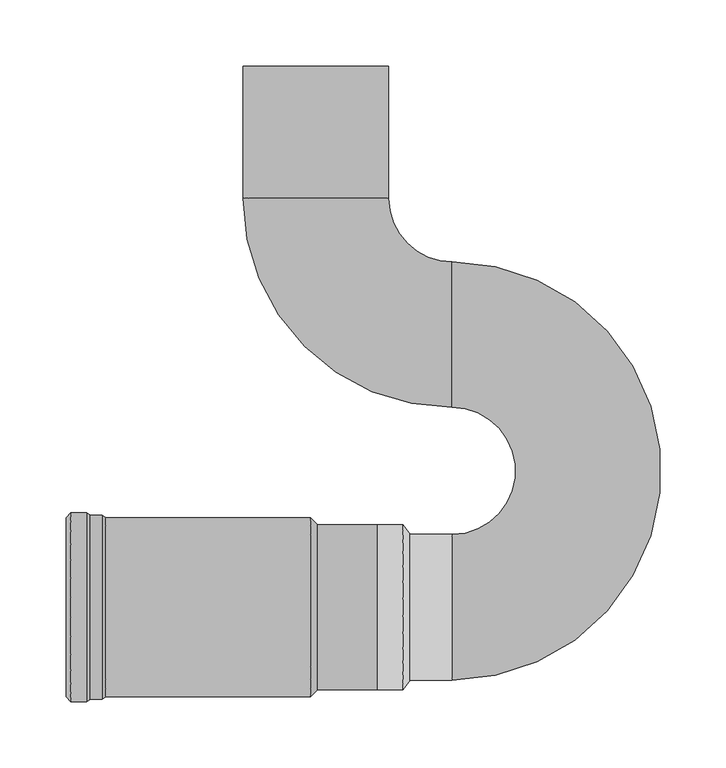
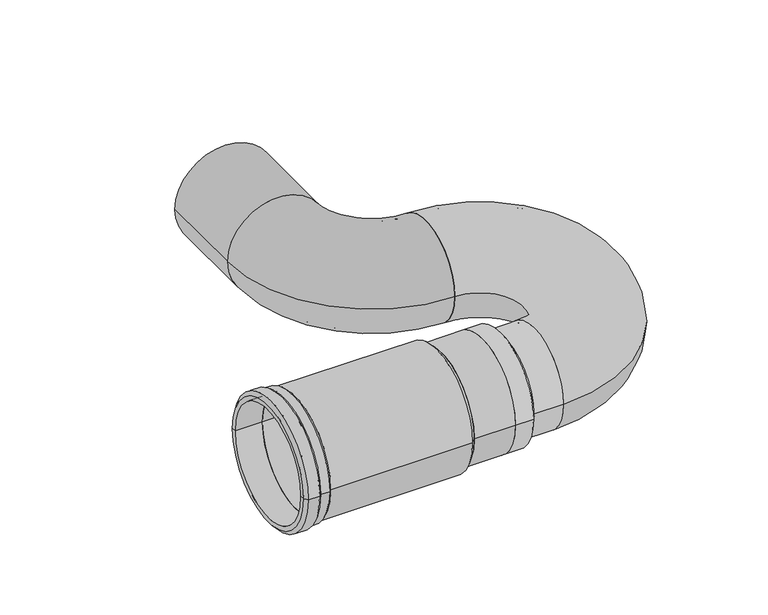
"""IFC4 building model written with IfcOpenShell, lengths in millimetres: pipe fitting geometry, Superdrain Trap with long socket : Superdrain Trap with long socket."""

import ifcopenshell
import ifcopenshell.guid

model = None  # the IFC model being written
_history = None  # IfcOwnerHistory: only IFC2X3 demands one
_inside = {}  # id of a spatial element -> (the spatial element, [elements in it])
_under = {}  # id of a project, library or spatial element -> (it, [spatial elements below it])
_declared = {}  # id of a project -> (the project, [libraries it declares])
_typed = {}  # id of a type object -> (the type object, [elements of that type])
_made_of = {}  # id of a material, layer set ... -> (it, [elements and type objects made of it])


def new_model(schema):
    """Start an empty IFC model of exactly this schema.

    Asked for "IFC4X3", IfcOpenShell would pick the latest addendum, in which some entities
    have other attributes; the version numbers below select the first issue.
    IFC2X3 requires an IfcOwnerHistory on every rooted entity: one is made here for all.
    """
    global model, _history
    if schema == "IFC4X3":
        model = ifcopenshell.file(schema_version=(4, 3, 0, 0))
    else:
        model = ifcopenshell.file(schema=schema)
    _inside.clear()
    _under.clear()
    _declared.clear()
    _typed.clear()
    _made_of.clear()
    _history = None
    if model.schema == "IFC2X3":
        org = make("IfcOrganization", Name="unknown")
        user = make(
            "IfcPersonAndOrganization",
            ThePerson=make("IfcPerson", FamilyName="unknown"),
            TheOrganization=org,
        )
        app = make(
            "IfcApplication",
            ApplicationDeveloper=org,
            Version="unknown",
            ApplicationFullName="unknown",
            ApplicationIdentifier="unknown",
        )
        _history = make(
            "IfcOwnerHistory",
            OwningUser=user,
            OwningApplication=app,
            ChangeAction="ADDED",
            CreationDate=0,
        )
    return model


def make(cls, **values):
    """One entity of the class cls with the attributes given. An attribute that is None is left unset."""
    return model.create_entity(
        cls, **{name: value for name, value in values.items() if value is not None}
    )


def rooted(cls, **values):
    """An entity with a GlobalId (a new one), such as an element, a storey or a relation."""
    return make(cls, GlobalId=ifcopenshell.guid.new(), OwnerHistory=_history, **values)


def si_unit(unit_type, name, prefix=None):
    """IfcSIUnit, for example si_unit("LENGTHUNIT", "METRE", prefix="MILLI")."""
    return make("IfcSIUnit", UnitType=unit_type, Prefix=prefix, Name=name)


def assignment(units):
    """IfcUnitAssignment: the units of a project."""
    return None if units is None else make("IfcUnitAssignment", Units=units)


def point(xyz):
    """IfcCartesianPoint."""
    return None if xyz is None else make("IfcCartesianPoint", Coordinates=xyz)


def direction(xyz):
    """IfcDirection."""
    return None if xyz is None else make("IfcDirection", DirectionRatios=xyz)


def frame(location, z_axis=None, x_axis=None):
    """IfcAxis2Placement3D, a coordinate frame: its origin and axes. An axis left out is left unset."""
    return make(
        "IfcAxis2Placement3D",
        Location=point(location),
        Axis=direction(z_axis),
        RefDirection=direction(x_axis),
    )


def frame_2d(location, x_axis=None):
    """IfcAxis2Placement2D, a coordinate frame in the plane: its origin and x axis."""
    return make(
        "IfcAxis2Placement2D", Location=point(location), RefDirection=direction(x_axis)
    )


def origin():
    """The frame at (0, 0, 0) with its axes left unset."""
    return frame((0.0, 0.0, 0.0))


def origin_2d():
    """The frame at (0, 0) in the plane with its x axis left unset."""
    return frame_2d((0.0, 0.0))


def place(relative_to, where):
    """IfcLocalPlacement: puts the frame where relative to a parent placement (None: the world)."""
    return make(
        "IfcLocalPlacement", PlacementRelTo=relative_to, RelativePlacement=where
    )


def context(
    kind, dimensions, precision=None, world=None, true_north=None, identifier=None
):
    """IfcGeometricRepresentationContext, for example the 3D "Model" context."""
    return make(
        "IfcGeometricRepresentationContext",
        ContextIdentifier=identifier,
        ContextType=kind,
        CoordinateSpaceDimension=dimensions,
        Precision=precision,
        WorldCoordinateSystem=world,
        TrueNorth=true_north,
    )


def project(units=None, contexts=None):
    """IfcProject with its units and contexts."""
    return rooted(
        "IfcProject",
        Name="project",
        RepresentationContexts=contexts,
        UnitsInContext=assignment(units),
    )


def spatial(cls, under=None, at=None, **own):
    """A site, building, storey or space (cls), placed at a placement, below another one or the project."""
    s = rooted(cls, ObjectPlacement=at, **own)
    if under is not None:
        _under.setdefault(under.id(), (under, []))[1].append(s)
    return s


def polyline(points):
    """IfcPolyline through the points."""
    return make("IfcPolyline", Points=[point(p) for p in points])


def circle_curve(where, radius):
    """IfcCircle in the frame where."""
    return make("IfcCircle", Position=where, Radius=radius)


def ellipse_curve(where, semi_axis1, semi_axis2):
    """IfcEllipse in the frame where."""
    return make(
        "IfcEllipse", Position=where, SemiAxis1=semi_axis1, SemiAxis2=semi_axis2
    )


def trimmed(basis, trim1, trim2, sense, master):
    """IfcTrimmedCurve: the piece of a basis curve between two trims."""
    return make(
        "IfcTrimmedCurve",
        BasisCurve=basis,
        Trim1=trim1,
        Trim2=trim2,
        SenseAgreement=sense,
        MasterRepresentation=master,
    )


def segment(curve, same_sense, transition):
    """IfcCompositeCurveSegment."""
    return make(
        "IfcCompositeCurveSegment",
        Transition=transition,
        SameSense=same_sense,
        ParentCurve=curve,
    )


def composite_curve(segments, self_intersect=None):
    """IfcCompositeCurve: segments joined end to end."""
    return make("IfcCompositeCurve", Segments=segments, SelfIntersect=self_intersect)


def outline(outer, holes=None, kind="AREA"):
    """IfcArbitraryClosedProfileDef: a profile drawn as a closed curve; with holes, ...WithVoids."""
    if holes is None:
        return make("IfcArbitraryClosedProfileDef", ProfileType=kind, OuterCurve=outer)
    return make(
        "IfcArbitraryProfileDefWithVoids",
        ProfileType=kind,
        OuterCurve=outer,
        InnerCurves=holes,
    )


def extrude(swept, where, along, depth):
    """IfcExtrudedAreaSolid: the profile swept, set in the frame where, extruded along a direction by depth."""
    return make(
        "IfcExtrudedAreaSolid",
        SweptArea=swept,
        Position=where,
        ExtrudedDirection=direction(along),
        Depth=depth,
    )


def shape(context_of_items, identifier, shape_type, items):
    """IfcShapeRepresentation: the items that make up one representation, for example the "Body"."""
    return make(
        "IfcShapeRepresentation",
        ContextOfItems=context_of_items,
        RepresentationIdentifier=identifier,
        RepresentationType=shape_type,
        Items=items,
    )


def source(mapping_origin, context_of_items, identifier, shape_type, items):
    """IfcRepresentationMap: a shape defined once, which mapped items show again and again."""
    return make(
        "IfcRepresentationMap",
        MappingOrigin=mapping_origin,
        MappedRepresentation=shape(context_of_items, identifier, shape_type, items),
    )


def transform(
    local_origin,
    x_axis=None,
    y_axis=None,
    z_axis=None,
    scale=None,
    scale2=None,
    scale3=None,
    uniform=True,
):
    """IfcCartesianTransformationOperator3D, or its non-uniform kind. x_axis, y_axis, z_axis: its Axis1, 2, 3."""
    if uniform:
        return make(
            "IfcCartesianTransformationOperator3D",
            Axis1=direction(x_axis),
            Axis2=direction(y_axis),
            LocalOrigin=point(local_origin),
            Scale=scale,
            Axis3=direction(z_axis),
        )
    return make(
        "IfcCartesianTransformationOperator3DnonUniform",
        Axis1=direction(x_axis),
        Axis2=direction(y_axis),
        LocalOrigin=point(local_origin),
        Scale=scale,
        Axis3=direction(z_axis),
        Scale2=scale2,
        Scale3=scale3,
    )


def mapped(mapping_source, mapping_target):
    """IfcMappedItem: shows the shape of a source again, moved by a transform."""
    return make(
        "IfcMappedItem", MappingSource=mapping_source, MappingTarget=mapping_target
    )


def made_of(thing, what):
    """Note that an element or type object is made of a material, layer set ...; save() writes the relation."""
    if what is not None:
        _made_of.setdefault(what.id(), (what, []))[1].append(thing)
    return thing


def element(
    cls,
    number,
    at=None,
    inside=None,
    cuts=None,
    type_object=None,
    material=None,
    context=None,
    identifier="Body",
    shape_type=None,
    held_by="IfcProductDefinitionShape",
    body=None,
    shapes=None,
    **own,
):
    """One element of the class cls, such as IfcWall. Its Tag is "e" and its number.

    at: its placement. inside: the storey or other place that contains it. cuts: it is an
    opening in that element (IfcRelVoidsElement). A single representation is given by context,
    identifier, shape_type and body (its items); several are given by shapes. held_by: the class
    of the entity that holds the representations. save() writes the other relations.
    """
    e = rooted(cls, Tag="e%d" % number, ObjectPlacement=at, **own)
    if body is not None:
        shapes = [shape(context, identifier, shape_type, body)]
    if shapes is not None:
        e.Representation = make(held_by, Representations=shapes)
    if inside is not None:
        _inside.setdefault(inside.id(), (inside, []))[1].append(e)
    if cuts is not None:
        rooted(
            "IfcRelVoidsElement", RelatingBuildingElement=cuts, RelatedOpeningElement=e
        )
    if type_object is not None:
        _typed.setdefault(type_object.id(), (type_object, []))[1].append(e)
    return made_of(e, material)


def aggregate(whole, parts):
    """IfcRelAggregates: a whole, such as a stair, and the parts it consists of."""
    return rooted("IfcRelAggregates", RelatingObject=whole, RelatedObjects=parts)


def save(model, path):
    """Write the relations noted so far, then the file.

    IfcRelAggregates (storeys below a building ...), IfcRelContainedInSpatialStructure (elements
    in a storey), IfcRelDefinesByType, IfcRelAssociatesMaterial and IfcRelDeclares: one each for
    every whole, place, type object, material and project.
    """
    for whole, parts in _under.values():
        aggregate(whole, parts)
    for where, things in _inside.values():
        rooted(
            "IfcRelContainedInSpatialStructure",
            RelatedElements=things,
            RelatingStructure=where,
        )
    for kind, things in _typed.values():
        rooted("IfcRelDefinesByType", RelatedObjects=things, RelatingType=kind)
    for what, things in _made_of.values():
        rooted("IfcRelAssociatesMaterial", RelatedObjects=things, RelatingMaterial=what)
    for by, libraries in _declared.values():
        rooted("IfcRelDeclares", RelatingContext=by, RelatedDefinitions=libraries)
    model.write(path)


def plane_surface(at):
    """IfcPlane: the flat surface through the origin of the frame at, square to its z axis."""
    return make("IfcPlane", Position=at)


def cylinder_surface(at, radius):
    """IfcCylindricalSurface: all points at the distance radius from the z axis of the frame at."""
    return make("IfcCylindricalSurface", Position=at, Radius=radius)


def revolved_surface(curve, axis_point, axis_direction):
    """IfcSurfaceOfRevolution: the curve turned about the line through axis_point along axis_direction."""
    return make(
        "IfcSurfaceOfRevolution",
        SweptCurve=make("IfcArbitraryOpenProfileDef", ProfileType="CURVE", Curve=curve),
        AxisPosition=make("IfcAxis1Placement", Location=point(axis_point), Axis=direction(axis_direction)),
    )


def advanced_brep(points, edges, surfaces, faces):
    """IfcAdvancedBrep: a solid bounded by faces that lie on surfaces and meet in shared edges.

    An edge is (start, end): straight between two places in points (the first is 0);
    or (start, end, curve); or (start, end, curve, False) where it runs against its curve.
    A face is (place in surfaces, loops), or (place, loops, False) where it looks against
    its surface's normal. A loop lists edges by number (the first is 1), with a minus sign
    where the edge is run from its end to its start. The first loop is the outer one.
    """
    corners = [point(p) for p in points]
    vertices = [make("IfcVertexPoint", VertexGeometry=c) for c in corners]
    made = []
    for start, end, *more in edges:
        made.append(
            make(
                "IfcEdgeCurve",
                EdgeStart=vertices[start],
                EdgeEnd=vertices[end],
                EdgeGeometry=more[0] if more else make("IfcPolyline", Points=[corners[start], corners[end]]),
                SameSense=more[1] if len(more) > 1 else True,
            )
        )
    hull = []
    for where, loops, *sense in faces:
        bounds = []
        for j, loop in enumerate(loops):
            ring = [make("IfcOrientedEdge", EdgeElement=made[abs(k) - 1], Orientation=k > 0) for k in loop]
            bounds.append(
                make(
                    "IfcFaceOuterBound" if j == 0 else "IfcFaceBound",
                    Bound=make("IfcEdgeLoop", EdgeList=ring),
                    Orientation=True,
                )
            )
        hull.append(make("IfcAdvancedFace", Bounds=bounds, FaceSurface=surfaces[where], SameSense=sense[0] if sense else True))
    return make("IfcAdvancedBrep", Outer=make("IfcClosedShell", CfsFaces=hull))


def pipe_fitting_be7a3b5e(model_context):
    return source(origin(), model_context, "Body", "SolidModel", [
        extrude(outline(composite_curve([segment(trimmed(circle_curve(origin_2d(), 62.5), [point((62.5, 0.0))], [point((-62.5, 0.0))], False, "CARTESIAN"), True, "CONTINUOUS"), segment(trimmed(circle_curve(origin_2d(), 62.5), [point((-62.5, 0.0))], [point((62.5, 0.0))], False, "CARTESIAN"), True, "CONTINUOUS")], self_intersect=False), holes=[composite_curve([segment(trimmed(circle_curve(origin_2d(), 59.5), [point((59.5, 0.0))], [point((-59.5, 0.0))], True, "CARTESIAN"), True, "CONTINUOUS"), segment(trimmed(circle_curve(origin_2d(), 59.5), [point((-59.5, 0.0))], [point((59.5, 0.0))], True, "CARTESIAN"), True, "CONTINUOUS")], self_intersect=False)]), frame((1.0, 0.0, 0.0), z_axis=(1.0, 0.0, 0.0), x_axis=(0.0, 1.0, 0.0)), (0.0, 0.0, 1.0), 45.0),
        advanced_brep(
        [(103.0, 55.0, 0.0), (103.0, -55.0, 0.0), (71.0, -55.0, 0.0), (71.0, 55.0, 0.0), (103.0, 52.0, 0.0), (103.0, -52.0, 0.0), (71.0, 52.0, 0.0), (71.0, -52.0, 0.0), (66.0, 59.5, 0.0), (66.0, -59.5, 0.0), (46.0, 59.5, 0.0), (46.0, -59.5, 0.0), (46.0, 62.5, 0.0), (46.0, -62.5, 0.0), (66.0, 62.5, 0.0), (66.0, -62.5, 0.0)],
        [
            (0, 1, circle_curve(frame((103.0, 0.0, 0.0), z_axis=(-1.0, 0.0, 0.0), x_axis=(0.0, -1.0, 0.0)), 55.0)),
            (1, 2),
            (2, 3, circle_curve(frame((71.0, 0.0, 0.0), z_axis=(1.0, 0.0, 0.0), x_axis=(0.0, -1.0, 0.0)), 55.0)),
            (3, 0),
            (1, 0, circle_curve(frame((103.0, 0.0, 0.0), z_axis=(-1.0, 0.0, 0.0), x_axis=(0.0, -1.0, 0.0)), 55.0)),
            (3, 2, circle_curve(frame((71.0, 0.0, 0.0), z_axis=(1.0, 0.0, 0.0), x_axis=(0.0, -1.0, 0.0)), 55.0)),
            (4, 5, circle_curve(frame((103.0, 0.0, 0.0), z_axis=(-1.0, 0.0, 0.0), x_axis=(0.0, -1.0, 0.0)), 52.0)),
            (5, 1),
            (0, 4),
            (5, 4, circle_curve(frame((103.0, 0.0, 0.0), z_axis=(-1.0, 0.0, 0.0), x_axis=(0.0, -1.0, 0.0)), 52.0)),
            (6, 7, circle_curve(frame((71.0, 0.0, 0.0), z_axis=(-1.0, 0.0, 0.0), x_axis=(0.0, -1.0, 0.0)), 52.0)),
            (7, 5),
            (4, 6),
            (7, 6, circle_curve(frame((71.0, 0.0, 0.0), z_axis=(-1.0, 0.0, 0.0), x_axis=(0.0, -1.0, 0.0)), 52.0)),
            (8, 9, circle_curve(frame((66.0, 0.0, 0.0), z_axis=(-1.0, 0.0, 0.0), x_axis=(0.0, -1.0, 0.0)), 59.5)),
            (9, 7),
            (6, 8),
            (9, 8, circle_curve(frame((66.0, 0.0, 0.0), z_axis=(-1.0, 0.0, 0.0), x_axis=(0.0, -1.0, 0.0)), 59.5)),
            (10, 11, circle_curve(frame((46.0, 0.0, 0.0), z_axis=(-1.0, 0.0, 0.0), x_axis=(0.0, -1.0, 0.0)), 59.5)),
            (11, 9),
            (8, 10),
            (11, 10, circle_curve(frame((46.0, 0.0, 0.0), z_axis=(-1.0, 0.0, 0.0), x_axis=(0.0, -1.0, 0.0)), 59.5)),
            (12, 13, circle_curve(frame((46.0, 0.0, 0.0), z_axis=(-1.0, 0.0, 0.0), x_axis=(0.0, -1.0, 0.0)), 62.5)),
            (13, 11),
            (10, 12),
            (13, 12, circle_curve(frame((46.0, 0.0, 0.0), z_axis=(-1.0, 0.0, 0.0), x_axis=(0.0, -1.0, 0.0)), 62.5)),
            (14, 15, circle_curve(frame((66.0, 0.0, 0.0), z_axis=(-1.0, 0.0, 0.0), x_axis=(0.0, -1.0, 0.0)), 62.5)),
            (15, 13),
            (12, 14),
            (15, 14, circle_curve(frame((66.0, 0.0, 0.0), z_axis=(-1.0, 0.0, 0.0), x_axis=(0.0, -1.0, 0.0)), 62.5)),
            (2, 15),
            (14, 3),
        ],
        [
            cylinder_surface(frame((-141.1591502, 0.0, 0.0), z_axis=(1.0, 0.0, 0.0), x_axis=(0.0, -1.0, 0.0)), 55.0),
            plane_surface(frame((103.0, 0.0, 0.0), z_axis=(1.0, 0.0, 0.0), x_axis=(0.0, -1.0, 0.0))),
            revolved_surface(polyline([(103.0, -52.0, 0.0), (71.0, -52.0, 0.0)]), (-141.1591502, 0.0, 0.0), (1.0, 0.0, 0.0)),
            revolved_surface(polyline([(71.0, -52.0, 0.0), (66.0, -59.5, 0.0)]), (-141.1591502, 0.0, 0.0), (1.0, 0.0, 0.0)),
            revolved_surface(polyline([(66.0, -59.5, 0.0), (46.0, -59.5, 0.0)]), (-141.1591502, 0.0, 0.0), (1.0, 0.0, 0.0)),
            plane_surface(frame((46.0, 0.0, 0.0), z_axis=(-1.0, 0.0, 0.0), x_axis=(0.0, -1.0, 0.0))),
            cylinder_surface(frame((-141.1591502, 0.0, 0.0), z_axis=(1.0, 0.0, 0.0), x_axis=(0.0, -1.0, 0.0)), 62.5),
            revolved_surface(polyline([(66.0, -62.5, 0.0), (71.0, -55.0, 0.0)]), (-141.1591502, 0.0, 0.0), (1.0, 0.0, 0.0)),
        ],
        [
            (0, [[1, 2, 3, 4]]),
            (0, [[5, -4, 6, -2]]),
            (1, [[7, 8, -1, 9]]),
            (1, [[10, -9, -5, -8]]),
            (2, [[11, 12, -7, 13]]),
            (2, [[14, -13, -10, -12]]),
            (3, [[15, 16, -11, 17]]),
            (3, [[18, -17, -14, -16]]),
            (4, [[19, 20, -15, 21]]),
            (4, [[22, -21, -18, -20]]),
            (5, [[23, 24, -19, 25]]),
            (5, [[26, -25, -22, -24]]),
            (6, [[27, 28, -23, 29]]),
            (6, [[30, -29, -26, -28]]),
            (7, [[-3, 31, -27, 32]]),
            (7, [[-6, -32, -30, -31]]),
        ],
    ),
        advanced_brep(
        [(-159.0, -67.5, 0.0), (-159.0, 67.5, 0.0), (-4.0, 67.5, 0.0), (-4.0, -67.5, 0.0), (-159.0, -62.5, 0.0), (-159.0, 62.5, 0.0), (1.0, -62.5, 0.0), (1.0, 62.5, 0.0)],
        [
            (0, 1, circle_curve(frame((-159.0, 0.0, 0.0), z_axis=(1.0, 0.0, 0.0), x_axis=(0.0, 1.0, 0.0)), 67.5)),
            (1, 2),
            (2, 3, circle_curve(frame((-4.0, 0.0, 0.0), z_axis=(-1.0, 0.0, 0.0), x_axis=(0.0, 1.0, 0.0)), 67.5)),
            (3, 0),
            (1, 0, circle_curve(frame((-159.0, 0.0, 0.0), z_axis=(1.0, 0.0, 0.0), x_axis=(0.0, 1.0, 0.0)), 67.5)),
            (3, 2, circle_curve(frame((-4.0, 0.0, 0.0), z_axis=(-1.0, 0.0, 0.0), x_axis=(0.0, 1.0, 0.0)), 67.5)),
            (4, 5, circle_curve(frame((-159.0, 0.0, 0.0), z_axis=(1.0, 0.0, 0.0), x_axis=(0.0, 1.0, 0.0)), 62.5)),
            (5, 1),
            (0, 4),
            (5, 4, circle_curve(frame((-159.0, 0.0, 0.0), z_axis=(1.0, 0.0, 0.0), x_axis=(0.0, 1.0, 0.0)), 62.5)),
            (6, 7, circle_curve(frame((1.0, 0.0, 0.0), z_axis=(1.0, 0.0, 0.0), x_axis=(0.0, 1.0, 0.0)), 62.5)),
            (7, 5),
            (4, 6),
            (7, 6, circle_curve(frame((1.0, 0.0, 0.0), z_axis=(1.0, 0.0, 0.0), x_axis=(0.0, 1.0, 0.0)), 62.5)),
            (2, 7),
            (6, 3),
        ],
        [
            cylinder_surface(frame((-172.319266, 0.0, 0.0), z_axis=(-1.0, 0.0, 0.0), x_axis=(0.0, 1.0, 0.0)), 67.5),
            plane_surface(frame((-159.0, 0.0, 0.0), z_axis=(-1.0, 0.0, 0.0), x_axis=(0.0, 1.0, 0.0))),
            revolved_surface(polyline([(-159.0, 62.5, 0.0), (1.0, 62.5, 0.0)]), (-172.319266, 0.0, 0.0), (-1.0, 0.0, 0.0)),
            revolved_surface(polyline([(1.0, 62.5, 0.0), (-4.0, 67.5, 0.0)]), (-172.319266, 0.0, 0.0), (-1.0, 0.0, 0.0)),
        ],
        [
            (0, [[1, 2, 3, 4]]),
            (0, [[5, -4, 6, -2]]),
            (1, [[7, 8, -1, 9]]),
            (1, [[10, -9, -5, -8]]),
            (2, [[11, 12, -7, 13]]),
            (2, [[14, -13, -10, -12]]),
            (3, [[-3, 15, -11, 16]]),
            (3, [[-6, -16, -14, -15]]),
        ],
    ),
        advanced_brep(
        [(103.0, -55.0, 0.0), (103.0, 55.0, 0.0), (103.0, -52.0, 0.0), (103.0, 52.0, 0.0), (103.0, 261.0, 0.0), (103.0, 151.0, 0.0), (103.0, 258.0, 0.0), (103.0, 154.0, 0.0)],
        [
            (0, 1, circle_curve(frame((103.0, 0.0, 0.0), z_axis=(-1.0, 0.0, 0.0), x_axis=(0.0, 1.0, 0.0)), 55.0)),
            (1, 0, circle_curve(frame((103.0, 0.0, 0.0), z_axis=(-1.0, 0.0, 0.0), x_axis=(0.0, 1.0, 0.0)), 55.0)),
            (2, 3, circle_curve(frame((103.0, 0.0, 0.0), z_axis=(1.0, 0.0, 0.0), x_axis=(0.0, 1.0, 0.0)), 52.0)),
            (3, 2, circle_curve(frame((103.0, 0.0, 0.0), z_axis=(1.0, 0.0, 0.0), x_axis=(0.0, 1.0, 0.0)), 52.0)),
            (4, 5, circle_curve(frame((103.0, 206.0, 0.0), z_axis=(-1.0, 0.0, 0.0), x_axis=(0.0, -1.0, 0.0)), 55.0)),
            (5, 4, circle_curve(frame((103.0, 206.0, 0.0), z_axis=(-1.0, 0.0, 0.0), x_axis=(0.0, -1.0, 0.0)), 55.0)),
            (6, 7, circle_curve(frame((103.0, 206.0, 0.0), z_axis=(1.0, 0.0, 0.0), x_axis=(0.0, -1.0, 0.0)), 52.0)),
            (7, 6, circle_curve(frame((103.0, 206.0, 0.0), z_axis=(1.0, 0.0, 0.0), x_axis=(0.0, -1.0, 0.0)), 52.0)),
            (5, 1, circle_curve(frame((103.0, 103.0, 0.0), z_axis=(0.0, 0.0, -1.0), x_axis=(0.0, -1.0, 0.0)), 48.0)),
            (0, 4, circle_curve(frame((103.0, 103.0, 0.0), z_axis=(0.0, 0.0, 1.0), x_axis=(0.0, -1.0, 0.0)), 158.0)),
            (7, 3, circle_curve(frame((103.0, 103.0, 0.0), z_axis=(0.0, 0.0, -1.0), x_axis=(0.0, -1.0, 0.0)), 51.0)),
            (2, 6, circle_curve(frame((103.0, 103.0, 0.0), z_axis=(0.0, 0.0, 1.0), x_axis=(0.0, -1.0, 0.0)), 155.0)),
        ],
        [
            plane_surface(frame((103.0, 0.0, 0.0), z_axis=(-1.0, 0.0, 0.0), x_axis=(0.0, 0.0, 1.0))),
            plane_surface(frame((103.0, 206.0, 0.0), z_axis=(-1.0, 0.0, 0.0), x_axis=(0.0, 0.0, 1.0))),
            revolved_surface(trimmed(ellipse_curve(frame((103.0, 0.0, 0.0), z_axis=(-1.0, 0.0, 0.0), x_axis=(0.0, 1.0, 0.0)), 55.0, 55.0), [point((103.0, -55.0, 0.0))], [point((103.0, 55.0, 0.0))], True, "CARTESIAN"), (103.0, 103.0, 0.0), (0.0, 0.0, 1.0)),
            revolved_surface(trimmed(ellipse_curve(frame((103.0, 0.0, 0.0), z_axis=(-1.0, 0.0, 0.0), x_axis=(0.0, 1.0, 0.0)), 55.0, 55.0), [point((103.0, 55.0, 0.0))], [point((103.0, -55.0, 0.0))], True, "CARTESIAN"), (103.0, 103.0, 0.0), (0.0, 0.0, 1.0)),
            revolved_surface(trimmed(ellipse_curve(frame((103.0, 0.0, 0.0), z_axis=(1.0, 0.0, 0.0), x_axis=(0.0, 1.0, 0.0)), 52.0, 52.0), [point((103.0, -52.0, 0.0))], [point((103.0, 52.0, 0.0))], True, "CARTESIAN"), (103.0, 103.0, 0.0), (0.0, 0.0, 1.0)),
            revolved_surface(trimmed(ellipse_curve(frame((103.0, 0.0, 0.0), z_axis=(1.0, 0.0, 0.0), x_axis=(0.0, 1.0, 0.0)), 52.0, 52.0), [point((103.0, 52.0, 0.0))], [point((103.0, -52.0, 0.0))], True, "CARTESIAN"), (103.0, 103.0, 0.0), (0.0, 0.0, 1.0)),
        ],
        [
            (0, [[1, 2], [3, 4]]),
            (1, [[5, 6], [7, 8]]),
            (2, [[9, -1, 10, -6]]),
            (3, [[-10, -2, -9, -5]]),
            (4, [[11, -3, 12, -8]]),
            (5, [[-12, -4, -11, -7]]),
        ],
    ),
        advanced_brep(
        [(-55.0, 309.0, 0.0), (55.0, 309.0, 0.0), (-52.0, 309.0, 0.0), (52.0, 309.0, 0.0), (103.0, 151.0, 0.0), (103.0, 261.0, 0.0), (103.0, 154.0, 0.0), (103.0, 258.0, 0.0)],
        [
            (0, 1, circle_curve(frame((0.0, 309.0, 0.0), z_axis=(0.0, 1.0, 0.0), x_axis=(1.0, 0.0, 0.0)), 55.0)),
            (1, 0, circle_curve(frame((0.0, 309.0, 0.0), z_axis=(0.0, 1.0, 0.0), x_axis=(1.0, 0.0, 0.0)), 55.0)),
            (2, 3, circle_curve(frame((0.0, 309.0, 0.0), z_axis=(0.0, -1.0, 0.0), x_axis=(1.0, 0.0, 0.0)), 52.0)),
            (3, 2, circle_curve(frame((0.0, 309.0, 0.0), z_axis=(0.0, -1.0, 0.0), x_axis=(1.0, 0.0, 0.0)), 52.0)),
            (4, 5, circle_curve(frame((103.0, 206.0, 0.0), z_axis=(1.0, 0.0, 0.0), x_axis=(0.0, 1.0, 0.0)), 55.0)),
            (5, 4, circle_curve(frame((103.0, 206.0, 0.0), z_axis=(1.0, 0.0, 0.0), x_axis=(0.0, 1.0, 0.0)), 55.0)),
            (6, 7, circle_curve(frame((103.0, 206.0, 0.0), z_axis=(-1.0, 0.0, 0.0), x_axis=(0.0, 1.0, 0.0)), 52.0)),
            (7, 6, circle_curve(frame((103.0, 206.0, 0.0), z_axis=(-1.0, 0.0, 0.0), x_axis=(0.0, 1.0, 0.0)), 52.0)),
            (5, 1, circle_curve(frame((103.0, 309.0, 0.0), z_axis=(0.0, 0.0, -1.0), x_axis=(-1.0, 0.0, 0.0)), 48.0)),
            (0, 4, circle_curve(frame((103.0, 309.0, 0.0), z_axis=(0.0, 0.0, 1.0), x_axis=(-1.0, 0.0, 0.0)), 158.0)),
            (7, 3, circle_curve(frame((103.0, 309.0, 0.0), z_axis=(0.0, 0.0, -1.0), x_axis=(-1.0, 0.0, 0.0)), 51.0)),
            (2, 6, circle_curve(frame((103.0, 309.0, 0.0), z_axis=(0.0, 0.0, 1.0), x_axis=(-1.0, 0.0, 0.0)), 155.0)),
        ],
        [
            plane_surface(frame((0.0, 309.0, 0.0), z_axis=(0.0, 1.0, 0.0), x_axis=(0.0, 0.0, 1.0))),
            plane_surface(frame((103.0, 206.0, 0.0), z_axis=(1.0, 0.0, 0.0), x_axis=(0.0, 0.0, 1.0))),
            revolved_surface(trimmed(ellipse_curve(frame((0.0, 309.0, 0.0), z_axis=(0.0, 1.0, 0.0), x_axis=(1.0, 0.0, 0.0)), 55.0, 55.0), [point((-55.0, 309.0, 0.0))], [point((55.0, 309.0, 0.0))], True, "CARTESIAN"), (103.0, 309.0, 0.0), (0.0, 0.0, 1.0)),
            revolved_surface(trimmed(ellipse_curve(frame((0.0, 309.0, 0.0), z_axis=(0.0, 1.0, 0.0), x_axis=(1.0, 0.0, 0.0)), 55.0, 55.0), [point((55.0, 309.0, 0.0))], [point((-55.0, 309.0, 0.0))], True, "CARTESIAN"), (103.0, 309.0, 0.0), (0.0, 0.0, 1.0)),
            revolved_surface(trimmed(ellipse_curve(frame((0.0, 309.0, 0.0), z_axis=(0.0, -1.0, 0.0), x_axis=(1.0, 0.0, 0.0)), 52.0, 52.0), [point((-52.0, 309.0, 0.0))], [point((52.0, 309.0, 0.0))], True, "CARTESIAN"), (103.0, 309.0, 0.0), (0.0, 0.0, 1.0)),
            revolved_surface(trimmed(ellipse_curve(frame((0.0, 309.0, 0.0), z_axis=(0.0, -1.0, 0.0), x_axis=(1.0, 0.0, 0.0)), 52.0, 52.0), [point((52.0, 309.0, 0.0))], [point((-52.0, 309.0, 0.0))], True, "CARTESIAN"), (103.0, 309.0, 0.0), (0.0, 0.0, 1.0)),
        ],
        [
            (0, [[1, 2], [3, 4]]),
            (1, [[5, 6], [7, 8]]),
            (2, [[9, -1, 10, -6]]),
            (3, [[-10, -2, -9, -5]]),
            (4, [[11, -3, 12, -8]]),
            (5, [[-12, -4, -11, -7]]),
        ],
    ),
        advanced_brep(
        [(-170.906565, -69.5, 0.0), (-170.906565, 69.5, 0.0), (-161.646874, 69.5, 0.0), (-161.646874, -69.5, 0.0), (-185.6706809, -71.5, 0.0), (-185.6706809, 71.5, 0.0), (-173.553439, 71.5, 0.0), (-173.553439, -71.5, 0.0), (-189.0, -67.532272, 0.0), (-189.0, 67.532272, 0.0), (-189.0, -62.5, 0.0), (-189.0, 62.5, 0.0), (-159.0, -62.5, 0.0), (-159.0, 62.5, 0.0), (-159.0, -67.5, 0.0), (-159.0, 67.5, 0.0)],
        [
            (0, 1, circle_curve(frame((-170.906565, 0.0, 0.0), z_axis=(1.0, 0.0, 0.0), x_axis=(0.0, 1.0, 0.0)), 69.5)),
            (1, 2),
            (2, 3, circle_curve(frame((-161.646874, 0.0, 0.0), z_axis=(-1.0, 0.0, 0.0), x_axis=(0.0, 1.0, 0.0)), 69.5)),
            (3, 0),
            (1, 0, circle_curve(frame((-170.906565, 0.0, 0.0), z_axis=(1.0, 0.0, 0.0), x_axis=(0.0, 1.0, 0.0)), 69.5)),
            (3, 2, circle_curve(frame((-161.646874, 0.0, 0.0), z_axis=(-1.0, 0.0, 0.0), x_axis=(0.0, 1.0, 0.0)), 69.5)),
            (4, 5, circle_curve(frame((-185.6706809, 0.0, 0.0), z_axis=(1.0, 0.0, 0.0), x_axis=(0.0, 1.0, 0.0)), 71.5)),
            (5, 6),
            (6, 7, circle_curve(frame((-173.553439, 0.0, 0.0), z_axis=(-1.0, 0.0, 0.0), x_axis=(0.0, 1.0, 0.0)), 71.5)),
            (7, 4),
            (5, 4, circle_curve(frame((-185.6706809, 0.0, 0.0), z_axis=(1.0, 0.0, 0.0), x_axis=(0.0, 1.0, 0.0)), 71.5)),
            (7, 6, circle_curve(frame((-173.553439, 0.0, 0.0), z_axis=(-1.0, 0.0, 0.0), x_axis=(0.0, 1.0, 0.0)), 71.5)),
            (8, 9, circle_curve(frame((-189.0, 0.0, 0.0), z_axis=(1.0, 0.0, 0.0), x_axis=(0.0, 1.0, 0.0)), 67.532272)),
            (9, 5),
            (4, 8),
            (9, 8, circle_curve(frame((-189.0, 0.0, 0.0), z_axis=(1.0, 0.0, 0.0), x_axis=(0.0, 1.0, 0.0)), 67.532272)),
            (10, 11, circle_curve(frame((-189.0, 0.0, 0.0), z_axis=(1.0, 0.0, 0.0), x_axis=(0.0, 1.0, 0.0)), 62.5)),
            (11, 9),
            (8, 10),
            (11, 10, circle_curve(frame((-189.0, 0.0, 0.0), z_axis=(1.0, 0.0, 0.0), x_axis=(0.0, 1.0, 0.0)), 62.5)),
            (12, 13, circle_curve(frame((-159.0, 0.0, 0.0), z_axis=(1.0, 0.0, 0.0), x_axis=(0.0, 1.0, 0.0)), 62.5)),
            (13, 11),
            (10, 12),
            (13, 12, circle_curve(frame((-159.0, 0.0, 0.0), z_axis=(1.0, 0.0, 0.0), x_axis=(0.0, 1.0, 0.0)), 62.5)),
            (14, 15, circle_curve(frame((-159.0, 0.0, 0.0), z_axis=(1.0, 0.0, 0.0), x_axis=(0.0, 1.0, 0.0)), 67.5)),
            (15, 13),
            (12, 14),
            (15, 14, circle_curve(frame((-159.0, 0.0, 0.0), z_axis=(1.0, 0.0, 0.0), x_axis=(0.0, 1.0, 0.0)), 67.5)),
            (2, 15),
            (14, 3),
            (6, 1),
            (0, 7),
        ],
        [
            cylinder_surface(frame((-301.691787, 0.0, 0.0), z_axis=(-1.0, 0.0, 0.0), x_axis=(0.0, 1.0, 0.0)), 69.5),
            cylinder_surface(frame((-301.691787, 0.0, 0.0), z_axis=(-1.0, 0.0, 0.0), x_axis=(0.0, 1.0, 0.0)), 71.5),
            revolved_surface(polyline([(-185.6706809, 71.5, 0.0), (-189.0, 67.532272, 0.0)]), (-301.691787, 0.0, 0.0), (-1.0, 0.0, 0.0)),
            plane_surface(frame((-189.0, 0.0, 0.0), z_axis=(-1.0, 0.0, 0.0), x_axis=(0.0, 1.0, 0.0))),
            revolved_surface(polyline([(-189.0, 62.5, 0.0), (-159.0, 62.5, 0.0)]), (-301.691787, 0.0, 0.0), (-1.0, 0.0, 0.0)),
            plane_surface(frame((-159.0, 0.0, 0.0), z_axis=(1.0, 0.0, 0.0), x_axis=(0.0, 1.0, 0.0))),
            revolved_surface(polyline([(-159.0, 67.5, 0.0), (-161.646874, 69.5, 0.0)]), (-301.691787, 0.0, 0.0), (-1.0, 0.0, 0.0)),
            revolved_surface(polyline([(-170.906565, 69.5, 0.0), (-173.553439, 71.5, 0.0)]), (-301.691787, 0.0, 0.0), (-1.0, 0.0, 0.0)),
        ],
        [
            (0, [[1, 2, 3, 4]]),
            (0, [[5, -4, 6, -2]]),
            (1, [[7, 8, 9, 10]]),
            (1, [[11, -10, 12, -8]]),
            (2, [[13, 14, -7, 15]]),
            (2, [[16, -15, -11, -14]]),
            (3, [[17, 18, -13, 19]]),
            (3, [[20, -19, -16, -18]]),
            (4, [[21, 22, -17, 23]]),
            (4, [[24, -23, -20, -22]]),
            (5, [[25, 26, -21, 27]]),
            (5, [[28, -27, -24, -26]]),
            (6, [[-3, 29, -25, 30]]),
            (6, [[-6, -30, -28, -29]]),
            (7, [[-9, 31, -1, 32]]),
            (7, [[-12, -32, -5, -31]]),
        ],
    ),
        extrude(outline(composite_curve([segment(trimmed(circle_curve(origin_2d(), 55.0), [point((0.0, 55.0))], [point((0.0, -55.0))], False, "CARTESIAN"), True, "CONTINUOUS"), segment(trimmed(circle_curve(origin_2d(), 55.0), [point((0.0, -55.0))], [point((0.0, 55.0))], False, "CARTESIAN"), True, "CONTINUOUS")], self_intersect=False), holes=[composite_curve([segment(trimmed(circle_curve(origin_2d(), 52.0), [point((0.0, 52.0))], [point((0.0, -52.0))], True, "CARTESIAN"), True, "CONTINUOUS"), segment(trimmed(circle_curve(origin_2d(), 52.0), [point((0.0, -52.0))], [point((0.0, 52.0))], True, "CARTESIAN"), True, "CONTINUOUS")], self_intersect=False)]), frame((0.0, 309.0, 0.0), z_axis=(0.0, 1.0, 0.0), x_axis=(0.0, 0.0, 1.0)), (0.0, 0.0, 1.0), 100.0),
    ])


if __name__ == "__main__":
    model = new_model("IFC4")
    model_context = context("Model", 3, world=origin())
    ifc_project = project(units=[si_unit("LENGTHUNIT", "METRE", prefix="MILLI")], contexts=[model_context])
    site = spatial("IfcSite", under=ifc_project)
    building = spatial("IfcBuilding", under=site)
    placement = place(None, origin())
    pipe_fitting_shape = pipe_fitting_be7a3b5e(model_context)
    element("IfcPipeFitting", 1, ObjectType="Superdrain Trap with long socket : Superdrain Trap with long socket", at=placement, inside=building, context=model_context, shape_type="MappedRepresentation", body=[
        mapped(pipe_fitting_shape, transform((0.0, 0.0, 0.0), x_axis=(1.0, 0.0, 0.0), y_axis=(0.0, 1.0, 0.0), z_axis=(0.0, 0.0, 1.0))),
    ])
    save(model, "model.ifc")
